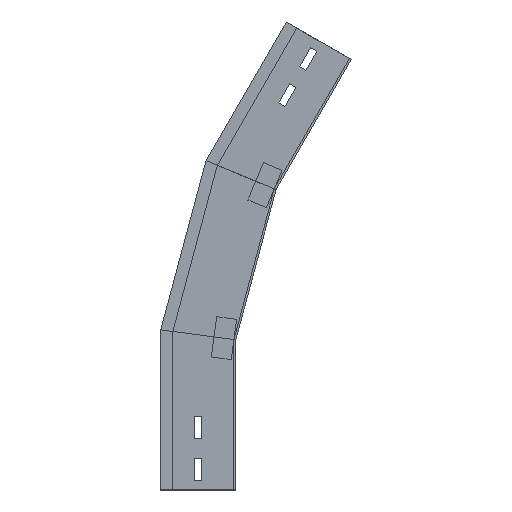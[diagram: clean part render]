
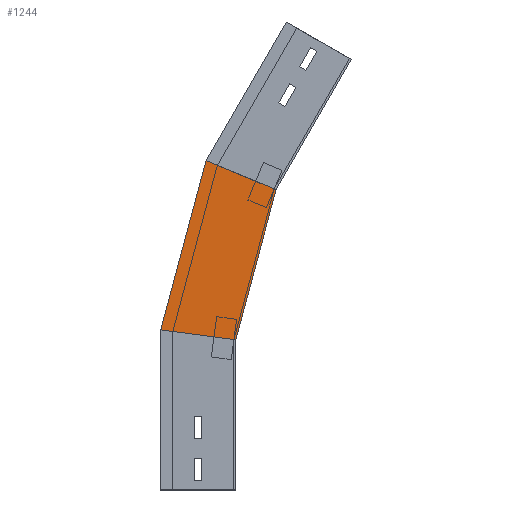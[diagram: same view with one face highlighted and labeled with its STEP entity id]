
A CAD part, left-side view. The second image highlights one B-rep face of the part: STEP entity #1244.
In plain terms, the highlighted planar face has unit normal (-1, 0, 0) as drawn and (1, 0, 0) by its records, which use the part's own axes.
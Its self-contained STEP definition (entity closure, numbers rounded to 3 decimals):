
#38 = ORIENTED_EDGE ( 'NONE', *, *, #314, .F. ) ;
#69 = AXIS2_PLACEMENT_3D ( 'NONE', #1347, #405, #543 ) ;
#111 = EDGE_LOOP ( 'NONE', ( #136, #580, #1287, #38 ) ) ;
#136 = ORIENTED_EDGE ( 'NONE', *, *, #397, .T. ) ;
#170 = LINE ( 'NONE', #920, #894 ) ;
#205 = VECTOR ( 'NONE', #242, 1000. ) ;
#231 = CARTESIAN_POINT ( 'NONE',  ( 0., 0., 150. ) ) ;
#242 = DIRECTION ( 'NONE',  ( 0., -0.259, 0.966 ) ) ;
#252 = VERTEX_POINT ( 'NONE', #986 ) ;
#266 = EDGE_CURVE ( 'NONE', #252, #1103, #267, .T. ) ;
#267 = LINE ( 'NONE', #969, #619 ) ;
#282 = CARTESIAN_POINT ( 'NONE',  ( 0., -40.117, 299.719 ) ) ;
#314 = EDGE_CURVE ( 'NONE', #1040, #372, #170, .T. ) ;
#355 = VECTOR ( 'NONE', #407, 1000. ) ;
#372 = VERTEX_POINT ( 'NONE', #231 ) ;
#397 = EDGE_CURVE ( 'NONE', #1040, #252, #854, .T. ) ;
#405 = DIRECTION ( 'NONE',  ( 1., 0., 0. ) ) ;
#407 = DIRECTION ( 'NONE',  ( 0., -0.259, 0.966 ) ) ;
#414 = PLANE ( 'NONE',  #69 ) ;
#543 = DIRECTION ( 'NONE',  ( 0., 0., -1. ) ) ;
#580 = ORIENTED_EDGE ( 'NONE', *, *, #266, .T. ) ;
#619 = VECTOR ( 'NONE', #865, 1000. ) ;
#656 = FACE_OUTER_BOUND ( 'NONE', #111, .T. ) ;
#669 = CARTESIAN_POINT ( 'NONE',  ( 0., 2.837, 139.412 ) ) ;
#807 = DIRECTION ( 'NONE',  ( 0., -0.991, -0.131 ) ) ;
#854 = LINE ( 'NONE', #1464, #355 ) ;
#865 = DIRECTION ( 'NONE',  ( 0., -0.924, -0.383 ) ) ;
#894 = VECTOR ( 'NONE', #807, 1000. ) ;
#917 = CARTESIAN_POINT ( 'NONE',  ( 0., 75., 159.874 ) ) ;
#920 = CARTESIAN_POINT ( 'NONE',  ( 0., -19.411, 147.444 ) ) ;
#969 = CARTESIAN_POINT ( 'NONE',  ( 0., -60.13, 291.429 ) ) ;
#986 = CARTESIAN_POINT ( 'NONE',  ( 0., 29.772, 328.667 ) ) ;
#1040 = VERTEX_POINT ( 'NONE', #917 ) ;
#1103 = VERTEX_POINT ( 'NONE', #282 ) ;
#1154 = LINE ( 'NONE', #669, #205 ) ;
#1244 = ADVANCED_FACE ( 'NONE', ( #656 ), #414, .T. ) ;
#1287 = ORIENTED_EDGE ( 'NONE', *, *, #1460, .F. ) ;
#1347 = CARTESIAN_POINT ( 'NONE',  ( 0., 2.837, 139.412 ) ) ;
#1460 = EDGE_CURVE ( 'NONE', #372, #1103, #1154, .T. ) ;
#1464 = CARTESIAN_POINT ( 'NONE',  ( 0., 75.281, 158.824 ) ) ;
